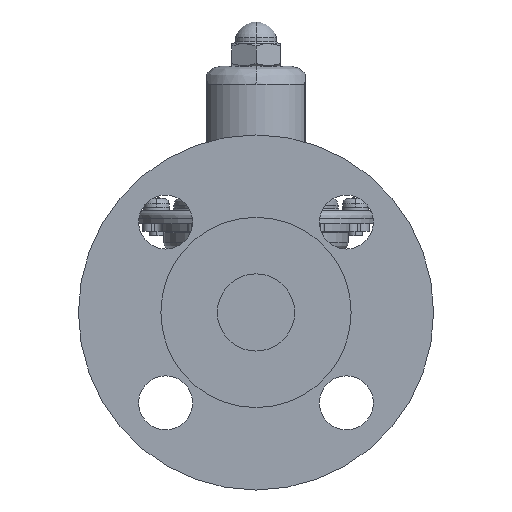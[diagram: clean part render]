
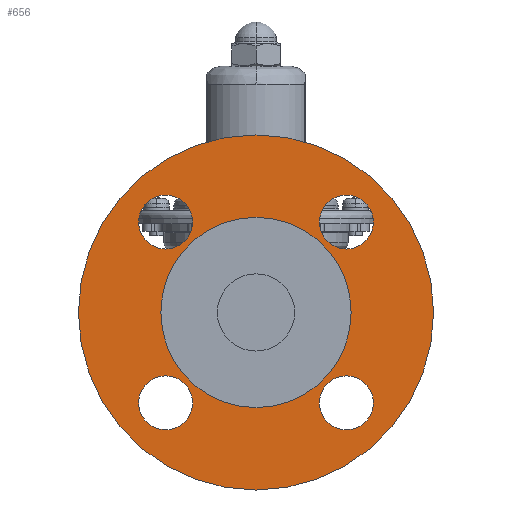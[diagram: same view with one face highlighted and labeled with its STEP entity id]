
A CAD part, left-side view. The second image highlights one B-rep face of the part: STEP entity #656.
In plain terms, the highlighted planar face has unit normal (-1, 0, 0).
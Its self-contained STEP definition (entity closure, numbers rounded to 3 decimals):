
#656=ADVANCED_FACE('',(#3605,#3606,#3607,#3608,#3609,#3610),#3604,.T.);
#3604=PLANE('',#8058);
#3605=FACE_OUTER_BOUND('',#8059,.T.);
#3606=FACE_BOUND('',#8060,.T.);
#3607=FACE_BOUND('',#8061,.T.);
#3608=FACE_BOUND('',#8062,.T.);
#3609=FACE_BOUND('',#8063,.T.);
#3610=FACE_BOUND('',#8064,.T.);
#8055=CARTESIAN_POINT('',(-96.5,-118.253,-135.));
#8056=DIRECTION('',(-1.,0.,0.));
#8057=DIRECTION('',(0.,0.,1.));
#8058=AXIS2_PLACEMENT_3D('',#8055,#8056,#8057);
#8059=EDGE_LOOP('',(#10875,#10876));
#8060=EDGE_LOOP('',(#10877,#10878));
#8061=EDGE_LOOP('',(#10879,#10880));
#8062=EDGE_LOOP('',(#10881,#10882));
#8063=EDGE_LOOP('',(#10883,#10884));
#8064=EDGE_LOOP('',(#10885,#10886));
#10875=ORIENTED_EDGE('',*,*,#12715,.F.);
#10876=ORIENTED_EDGE('',*,*,#12716,.F.);
#10877=ORIENTED_EDGE('',*,*,#12717,.T.);
#10878=ORIENTED_EDGE('',*,*,#12718,.T.);
#10879=ORIENTED_EDGE('',*,*,#12719,.T.);
#10880=ORIENTED_EDGE('',*,*,#12720,.T.);
#10881=ORIENTED_EDGE('',*,*,#12721,.T.);
#10882=ORIENTED_EDGE('',*,*,#12722,.T.);
#10883=ORIENTED_EDGE('',*,*,#12723,.T.);
#10884=ORIENTED_EDGE('',*,*,#12724,.T.);
#10885=ORIENTED_EDGE('',*,*,#12725,.F.);
#10886=ORIENTED_EDGE('',*,*,#12726,.F.);
#12715=EDGE_CURVE('',#18363,#18364,#18365,.T.);
#12716=EDGE_CURVE('',#18364,#18363,#18371,.T.);
#12717=EDGE_CURVE('',#18377,#18378,#18379,.T.);
#12718=EDGE_CURVE('',#18378,#18377,#18385,.T.);
#12719=EDGE_CURVE('',#18391,#18392,#18393,.T.);
#12720=EDGE_CURVE('',#18392,#18391,#18399,.T.);
#12721=EDGE_CURVE('',#18405,#18406,#18407,.T.);
#12722=EDGE_CURVE('',#18406,#18405,#18413,.T.);
#12723=EDGE_CURVE('',#18419,#18420,#18421,.T.);
#12724=EDGE_CURVE('',#18420,#18419,#18427,.T.);
#12725=EDGE_CURVE('',#18433,#18434,#18435,.T.);
#12726=EDGE_CURVE('',#18434,#18433,#18441,.T.);
#18363=VERTEX_POINT('',#25053);
#18364=VERTEX_POINT('',#25054);
#18365=CIRCLE('',#25058,62.5);
#18371=CIRCLE('',#25062,62.5);
#18377=VERTEX_POINT('',#25063);
#18378=VERTEX_POINT('',#25064);
#18379=CIRCLE('',#25068,9.5);
#18385=CIRCLE('',#25072,9.5);
#18391=VERTEX_POINT('',#25073);
#18392=VERTEX_POINT('',#25074);
#18393=CIRCLE('',#25078,9.5);
#18399=CIRCLE('',#25082,9.5);
#18405=VERTEX_POINT('',#25083);
#18406=VERTEX_POINT('',#25084);
#18407=CIRCLE('',#25088,9.5);
#18413=CIRCLE('',#25092,9.5);
#18419=VERTEX_POINT('',#25093);
#18420=VERTEX_POINT('',#25094);
#18421=CIRCLE('',#25098,9.5);
#18427=CIRCLE('',#25102,9.5);
#18433=VERTEX_POINT('',#25103);
#18434=VERTEX_POINT('',#25104);
#18435=CIRCLE('',#25108,33.5);
#18441=CIRCLE('',#25112,33.5);
#25053=CARTESIAN_POINT('',(-96.5,0.,-62.5));
#25054=CARTESIAN_POINT('',(-96.5,0.,62.5));
#25055=CARTESIAN_POINT('',(-96.5,0.,0.));
#25056=DIRECTION('',(1.,0.,0.));
#25057=DIRECTION('',(0.,0.,1.));
#25058=AXIS2_PLACEMENT_3D('',#25055,#25056,#25057);
#25059=CARTESIAN_POINT('',(-96.5,0.,0.));
#25060=DIRECTION('',(1.,0.,0.));
#25061=DIRECTION('',(0.,0.,1.));
#25062=AXIS2_PLACEMENT_3D('',#25059,#25060,#25061);
#25063=CARTESIAN_POINT('',(-96.5,-31.82,-22.32));
#25064=CARTESIAN_POINT('',(-96.5,-31.82,-41.32));
#25065=CARTESIAN_POINT('',(-96.5,-31.82,-31.82));
#25066=DIRECTION('',(1.,0.,0.));
#25067=DIRECTION('',(0.,0.,1.));
#25068=AXIS2_PLACEMENT_3D('',#25065,#25066,#25067);
#25069=CARTESIAN_POINT('',(-96.5,-31.82,-31.82));
#25070=DIRECTION('',(1.,0.,0.));
#25071=DIRECTION('',(0.,0.,1.));
#25072=AXIS2_PLACEMENT_3D('',#25069,#25070,#25071);
#25073=CARTESIAN_POINT('',(-96.5,31.82,-22.32));
#25074=CARTESIAN_POINT('',(-96.5,31.82,-41.32));
#25075=CARTESIAN_POINT('',(-96.5,31.82,-31.82));
#25076=DIRECTION('',(1.,0.,0.));
#25077=DIRECTION('',(0.,0.,1.));
#25078=AXIS2_PLACEMENT_3D('',#25075,#25076,#25077);
#25079=CARTESIAN_POINT('',(-96.5,31.82,-31.82));
#25080=DIRECTION('',(1.,0.,0.));
#25081=DIRECTION('',(0.,0.,1.));
#25082=AXIS2_PLACEMENT_3D('',#25079,#25080,#25081);
#25083=CARTESIAN_POINT('',(-96.5,31.82,41.32));
#25084=CARTESIAN_POINT('',(-96.5,31.82,22.32));
#25085=CARTESIAN_POINT('',(-96.5,31.82,31.82));
#25086=DIRECTION('',(1.,0.,0.));
#25087=DIRECTION('',(0.,0.,1.));
#25088=AXIS2_PLACEMENT_3D('',#25085,#25086,#25087);
#25089=CARTESIAN_POINT('',(-96.5,31.82,31.82));
#25090=DIRECTION('',(1.,0.,0.));
#25091=DIRECTION('',(0.,0.,1.));
#25092=AXIS2_PLACEMENT_3D('',#25089,#25090,#25091);
#25093=CARTESIAN_POINT('',(-96.5,-31.82,41.32));
#25094=CARTESIAN_POINT('',(-96.5,-31.82,22.32));
#25095=CARTESIAN_POINT('',(-96.5,-31.82,31.82));
#25096=DIRECTION('',(1.,0.,0.));
#25097=DIRECTION('',(0.,0.,1.));
#25098=AXIS2_PLACEMENT_3D('',#25095,#25096,#25097);
#25099=CARTESIAN_POINT('',(-96.5,-31.82,31.82));
#25100=DIRECTION('',(1.,0.,0.));
#25101=DIRECTION('',(0.,0.,1.));
#25102=AXIS2_PLACEMENT_3D('',#25099,#25100,#25101);
#25103=CARTESIAN_POINT('',(-96.5,0.,-33.5));
#25104=CARTESIAN_POINT('',(-96.5,0.,33.5));
#25105=CARTESIAN_POINT('',(-96.5,0.,0.));
#25106=DIRECTION('',(-1.,0.,0.));
#25107=DIRECTION('',(0.,0.,1.));
#25108=AXIS2_PLACEMENT_3D('',#25105,#25106,#25107);
#25109=CARTESIAN_POINT('',(-96.5,0.,0.));
#25110=DIRECTION('',(-1.,0.,0.));
#25111=DIRECTION('',(0.,0.,1.));
#25112=AXIS2_PLACEMENT_3D('',#25109,#25110,#25111);
